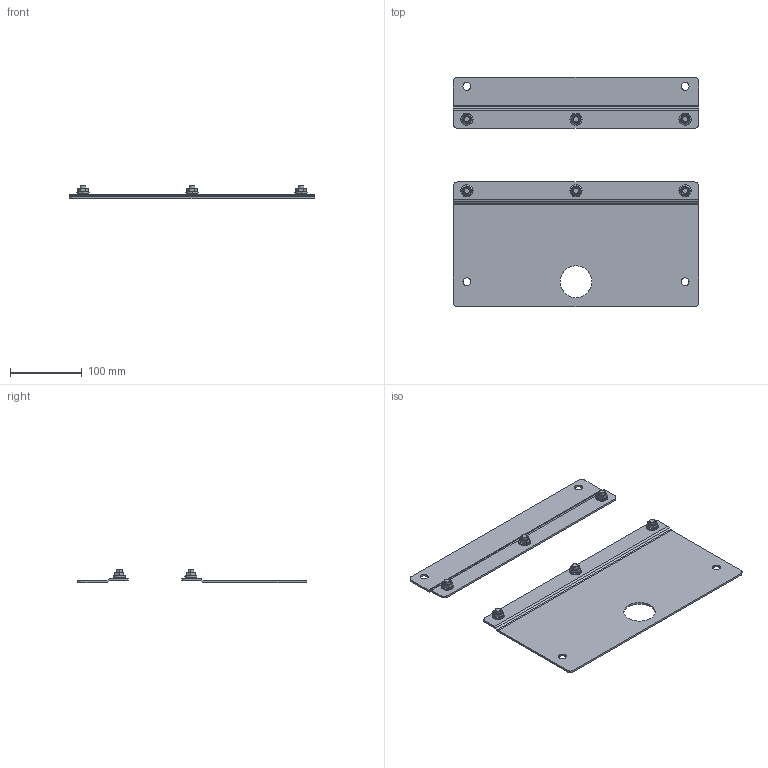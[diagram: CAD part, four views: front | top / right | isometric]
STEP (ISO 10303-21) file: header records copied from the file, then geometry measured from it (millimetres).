
FILE_DESCRIPTION((''),'2;1');
FILE_NAME('MODEL-066-VRMS_ASM','2017-05-26T',('JoelB'),('SAGINAW CONTROL & ENGINEERING'),'PRO/ENGINEER BY PARAMETRIC TECHNOLOGY CORPORATION, 2012070','PRO/ENGINEER BY PARAMETRIC TECHNOLOGY CORPORATION, 2012070','');
FILE_SCHEMA(('AUTOMOTIVE_DESIGN { 1 0 10303 214 1 1 1 1 }'));
Length unit declared in the file: inch
Products named in the file (5): MODEL-066-VRMS-TP-STRP; MODEL-066-VRMS-BTM-STRP; 100059; 100921; MODEL-066-VRMS_ASM
Assembly tree (14 placements, depth 2):
  MODEL-066-VRMS_ASM
    MODEL-066-VRMS-TP-STRP
    MODEL-066-VRMS-BTM-STRP
    100059  x6
    100921  x6
Bounding box: 342.9 x 320.67 x 18.95 mm (x, y, z)
Volume: 227980.4 mm3; surface area: 179215.8 mm2
Topology: 14 solids, 14 shells, 428 faces, 910 edges, 516 vertices
Faces by surface type: cylinder 110, plane 102, bspline 72, torus 60, sphere 48, cone 36
Entity records: 5951 total; most frequent: CARTESIAN_POINT 1607, DIRECTION 706, ORIENTED_EDGE 600, PRESENTATION_STYLE_ASSIGNMENT 304, STYLED_ITEM 304, CURVE_STYLE 300, EDGE_CURVE 300, AXIS2_PLACEMENT_3D 290
